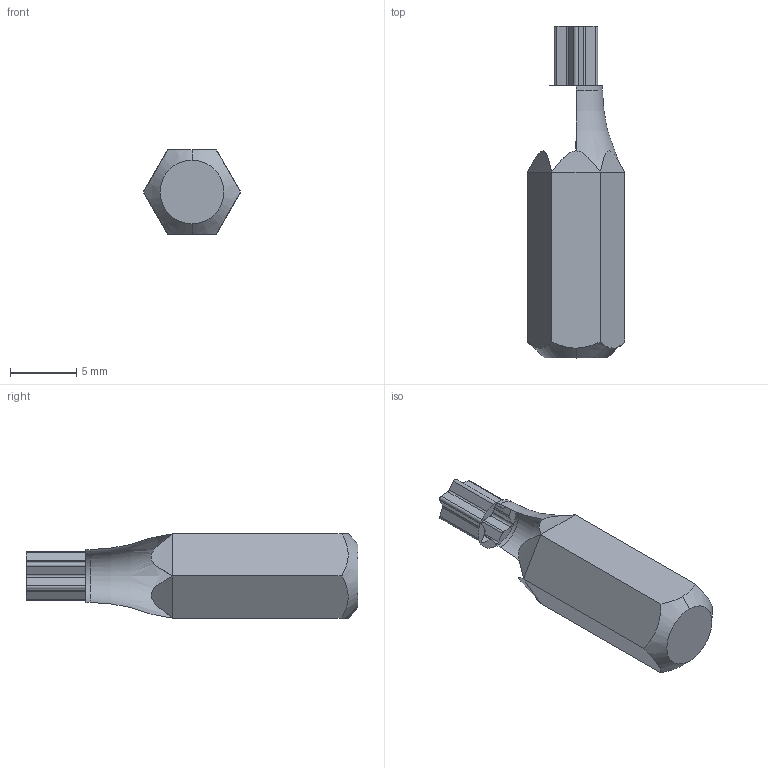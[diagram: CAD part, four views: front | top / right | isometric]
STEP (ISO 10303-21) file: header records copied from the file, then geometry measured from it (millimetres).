
FILE_DESCRIPTION (( 'STEP AP203' ), '1' );
FILE_NAME ('ZF_STEP_VF_VAIT1T20_A11.step', '2011-01-04T16:17:10', ( 'Pizzato Elettrica' ), ( '' ), 'SwSTEP 2.0', 'SolidWorks 2010', '' );
FILE_SCHEMA (( 'CONFIG_CONTROL_DESIGN' ));
Length unit declared in the file: millimetre
Products named in the file (1): ZF_STEP_VF_VAIT1T20_A11
Bounding box: 7.32 x 25 x 6.34 mm (x, y, z)
Volume: 638.4 mm3; surface area: 511.3 mm2
Topology: 1 solids, 1 shells, 48 faces, 134 edges, 88 vertices
Faces by surface type: plane 22, cylinder 15, bspline 6, torus 3, cone 2
Entity records: 2187 total; most frequent: CARTESIAN_POINT 936, ORIENTED_EDGE 264, DIRECTION 219, EDGE_CURVE 132, VERTEX_POINT 88, AXIS2_PLACEMENT_3D 80, LINE 59, VECTOR 59
